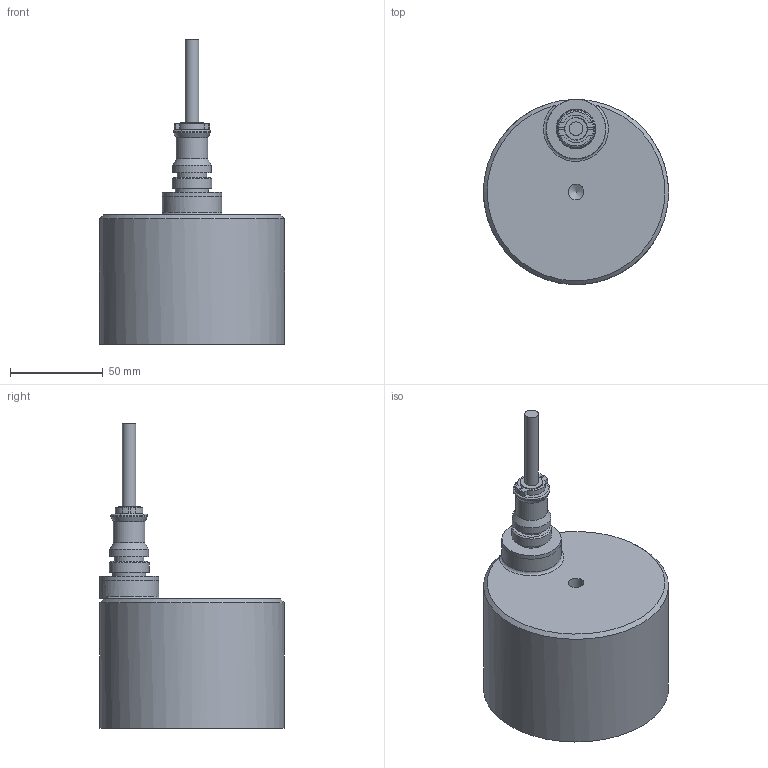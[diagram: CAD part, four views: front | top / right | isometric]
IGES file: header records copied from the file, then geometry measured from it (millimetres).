
Global section: file name: EMH-1-100Dx70H-V; native system: unknown; preprocessor: unknown; author: unknown; organization: unknown; date: 20231215.142444; units: millimetre
Bounding box: 100 x 99.91 x 164.8 mm (x, y, z)
Volume: 566510.2 mm3; surface area: 49499.9 mm2
Topology: 6 solids, 6 shells, 118 faces, 399 edges, 336 vertices
Faces by surface type: bspline 110, revolution 8
